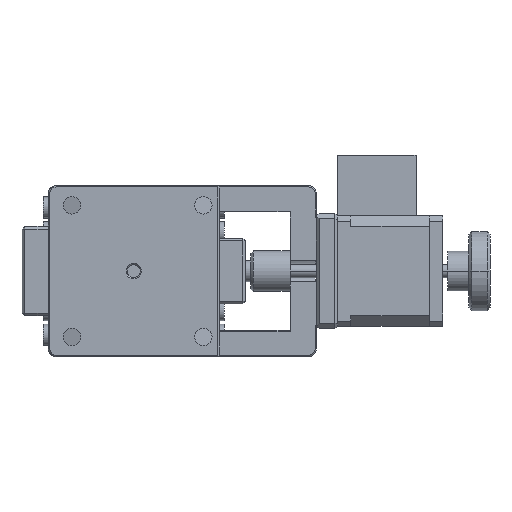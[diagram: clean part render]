
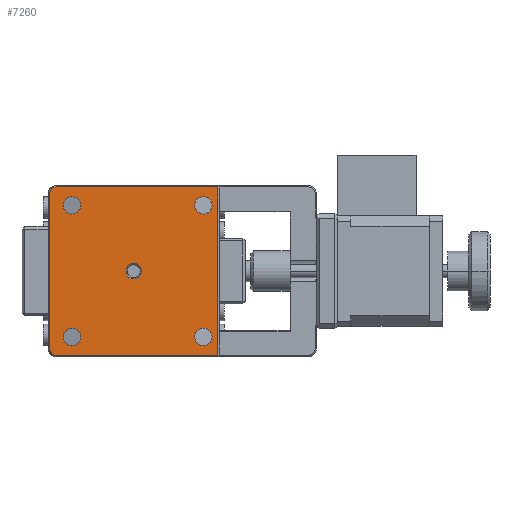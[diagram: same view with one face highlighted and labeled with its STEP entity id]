
A CAD part, front view. The second image highlights one B-rep face of the part: STEP entity #7260.
In plain terms, the highlighted planar face has unit normal (0, -1, 0).
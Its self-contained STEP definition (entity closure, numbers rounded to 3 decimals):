
#87 = ORIENTED_EDGE ( 'NONE', *, *, #9375, .T. ) ;
#365 = VERTEX_POINT ( 'NONE', #15858 ) ;
#374 = DIRECTION ( 'NONE',  ( 0., 0., 1. ) ) ;
#528 = ORIENTED_EDGE ( 'NONE', *, *, #15488, .T. ) ;
#898 = DIRECTION ( 'NONE',  ( 0., -1., 0. ) ) ;
#1033 = DIRECTION ( 'NONE',  ( 0., 0., 1. ) ) ;
#1092 = CIRCLE ( 'NONE', #17115, 3.3 ) ;
#1122 = VERTEX_POINT ( 'NONE', #16133 ) ;
#1263 = CIRCLE ( 'NONE', #10893, 2.5 ) ;
#1334 = FACE_BOUND ( 'NONE', #17310, .T. ) ;
#1569 = AXIS2_PLACEMENT_3D ( 'NONE', #19089, #5346, #8443 ) ;
#1606 = CARTESIAN_POINT ( 'NONE',  ( 26.5, -75., 57.5 ) ) ;
#1794 = CARTESIAN_POINT ( 'NONE',  ( -32., -75., 62. ) ) ;
#2060 = AXIS2_PLACEMENT_3D ( 'NONE', #7752, #7548, #4551 ) ;
#2153 = DIRECTION ( 'NONE',  ( 0., 1., 0. ) ) ;
#2225 = CIRCLE ( 'NONE', #15039, 3.3 ) ;
#2430 = DIRECTION ( 'NONE',  ( 0., 1., 0. ) ) ;
#2477 = DIRECTION ( 'NONE',  ( 0., 0., 1. ) ) ;
#2807 = EDGE_CURVE ( 'NONE', #14382, #14304, #1092, .T. ) ;
#2884 = LINE ( 'NONE', #9086, #8531 ) ;
#2912 = DIRECTION ( 'NONE',  ( 0., 0., 1. ) ) ;
#2954 = PLANE ( 'NONE',  #12793 ) ;
#2982 = DIRECTION ( 'NONE',  ( 1., 0., 0. ) ) ;
#3248 = FACE_BOUND ( 'NONE', #9110, .T. ) ;
#3351 = DIRECTION ( 'NONE',  ( 0., 0., 1. ) ) ;
#3413 = CIRCLE ( 'NONE', #14616, 2.925 ) ;
#3576 = ORIENTED_EDGE ( 'NONE', *, *, #12920, .T. ) ;
#3672 = EDGE_LOOP ( 'NONE', ( #8825, #5603 ) ) ;
#3991 = CARTESIAN_POINT ( 'NONE',  ( 26.5, -75., 7.5 ) ) ;
#4009 = DIRECTION ( 'NONE',  ( -1., 0., 0. ) ) ;
#4159 = CARTESIAN_POINT ( 'NONE',  ( 26.5, -75., 7.5 ) ) ;
#4203 = CARTESIAN_POINT ( 'NONE',  ( -29.5, -75., 62. ) ) ;
#4289 = EDGE_CURVE ( 'NONE', #16342, #18741, #15859, .T. ) ;
#4294 = ORIENTED_EDGE ( 'NONE', *, *, #4362, .T. ) ;
#4309 = DIRECTION ( 'NONE',  ( 0., 1., 0. ) ) ;
#4362 = EDGE_CURVE ( 'NONE', #11597, #16342, #7039, .T. ) ;
#4380 = CARTESIAN_POINT ( 'NONE',  ( -23.5, -75., 7.5 ) ) ;
#4551 = DIRECTION ( 'NONE',  ( 0., 0., 1. ) ) ;
#4714 = CARTESIAN_POINT ( 'NONE',  ( -23.5, -75., 54.2 ) ) ;
#4729 = CIRCLE ( 'NONE', #8562, 3.3 ) ;
#4855 = FACE_BOUND ( 'NONE', #3672, .T. ) ;
#5032 = EDGE_CURVE ( 'NONE', #365, #11263, #9432, .T. ) ;
#5227 = ORIENTED_EDGE ( 'NONE', *, *, #5538, .T. ) ;
#5346 = DIRECTION ( 'NONE',  ( 0., 1., 0. ) ) ;
#5372 = CARTESIAN_POINT ( 'NONE',  ( 0., -75., 29.575 ) ) ;
#5397 = VERTEX_POINT ( 'NONE', #15257 ) ;
#5538 = EDGE_CURVE ( 'NONE', #6581, #11597, #13436, .T. ) ;
#5603 = ORIENTED_EDGE ( 'NONE', *, *, #15965, .T. ) ;
#5714 = DIRECTION ( 'NONE',  ( 0., 0., 1. ) ) ;
#5873 = ORIENTED_EDGE ( 'NONE', *, *, #14516, .T. ) ;
#6373 = VERTEX_POINT ( 'NONE', #9139 ) ;
#6581 = VERTEX_POINT ( 'NONE', #13235 ) ;
#6794 = VERTEX_POINT ( 'NONE', #8213 ) ;
#7039 = CIRCLE ( 'NONE', #11839, 2.5 ) ;
#7071 = DIRECTION ( 'NONE',  ( 0., 1., 0. ) ) ;
#7098 = CARTESIAN_POINT ( 'NONE',  ( -29.5, -75., 3. ) ) ;
#7170 = DIRECTION ( 'NONE',  ( 0., 0., 1. ) ) ;
#7199 = DIRECTION ( 'NONE',  ( 0., -1., 0. ) ) ;
#7260 = ADVANCED_FACE ( 'NONE', ( #4855, #1334, #18387, #3248, #16678, #9156 ), #2954, .F. ) ;
#7531 = VERTEX_POINT ( 'NONE', #9108 ) ;
#7538 = ORIENTED_EDGE ( 'NONE', *, *, #8386, .T. ) ;
#7548 = DIRECTION ( 'NONE',  ( 0., 1., 0. ) ) ;
#7752 = CARTESIAN_POINT ( 'NONE',  ( 0., -75., 32.5 ) ) ;
#7763 = VERTEX_POINT ( 'NONE', #17344 ) ;
#8092 = EDGE_CURVE ( 'NONE', #13660, #9760, #9564, .T. ) ;
#8213 = CARTESIAN_POINT ( 'NONE',  ( 32., -75., 0.5 ) ) ;
#8386 = EDGE_CURVE ( 'NONE', #11263, #365, #3413, .T. ) ;
#8443 = DIRECTION ( 'NONE',  ( 0., 0., 1. ) ) ;
#8531 = VECTOR ( 'NONE', #2982, 1000. ) ;
#8562 = AXIS2_PLACEMENT_3D ( 'NONE', #11372, #2430, #14479 ) ;
#8698 = CARTESIAN_POINT ( 'NONE',  ( -32., -75., 3. ) ) ;
#8825 = ORIENTED_EDGE ( 'NONE', *, *, #2807, .T. ) ;
#8862 = EDGE_CURVE ( 'NONE', #7763, #6794, #2884, .T. ) ;
#8950 = CARTESIAN_POINT ( 'NONE',  ( -23.5, -75., 57.5 ) ) ;
#8953 = VECTOR ( 'NONE', #15952, 1000. ) ;
#9086 = CARTESIAN_POINT ( 'NONE',  ( -32.5, -75., 0.5 ) ) ;
#9108 = CARTESIAN_POINT ( 'NONE',  ( 26.5, -75., 54.2 ) ) ;
#9110 = EDGE_LOOP ( 'NONE', ( #10636, #12428 ) ) ;
#9139 = CARTESIAN_POINT ( 'NONE',  ( -23.5, -75., 4.2 ) ) ;
#9156 = FACE_OUTER_BOUND ( 'NONE', #12293, .T. ) ;
#9375 = EDGE_CURVE ( 'NONE', #6794, #6581, #11671, .T. ) ;
#9432 = CIRCLE ( 'NONE', #2060, 2.925 ) ;
#9564 = CIRCLE ( 'NONE', #12119, 3.3 ) ;
#9760 = VERTEX_POINT ( 'NONE', #18786 ) ;
#9776 = CARTESIAN_POINT ( 'NONE',  ( -23.5, -75., 57.5 ) ) ;
#10636 = ORIENTED_EDGE ( 'NONE', *, *, #14509, .T. ) ;
#10893 = AXIS2_PLACEMENT_3D ( 'NONE', #7098, #7199, #19336 ) ;
#11232 = CARTESIAN_POINT ( 'NONE',  ( -23.5, -75., 60.8 ) ) ;
#11263 = VERTEX_POINT ( 'NONE', #5372 ) ;
#11372 = CARTESIAN_POINT ( 'NONE',  ( 26.5, -75., 57.5 ) ) ;
#11373 = CARTESIAN_POINT ( 'NONE',  ( -29.5, -75., 64.5 ) ) ;
#11597 = VERTEX_POINT ( 'NONE', #11373 ) ;
#11671 = LINE ( 'NONE', #18736, #15281 ) ;
#11836 = ORIENTED_EDGE ( 'NONE', *, *, #14514, .T. ) ;
#11839 = AXIS2_PLACEMENT_3D ( 'NONE', #4203, #898, #5714 ) ;
#11911 = CARTESIAN_POINT ( 'NONE',  ( 26.5, -75., 4.2 ) ) ;
#12119 = AXIS2_PLACEMENT_3D ( 'NONE', #4159, #7071, #7170 ) ;
#12227 = AXIS2_PLACEMENT_3D ( 'NONE', #8950, #16279, #1033 ) ;
#12293 = EDGE_LOOP ( 'NONE', ( #16945, #87, #5227, #4294, #16355, #5873 ) ) ;
#12428 = ORIENTED_EDGE ( 'NONE', *, *, #8092, .T. ) ;
#12552 = CIRCLE ( 'NONE', #15091, 3.3 ) ;
#12793 = AXIS2_PLACEMENT_3D ( 'NONE', #18486, #13671, #19796 ) ;
#12920 = EDGE_CURVE ( 'NONE', #5397, #6373, #17574, .T. ) ;
#13133 = CARTESIAN_POINT ( 'NONE',  ( -29.5, -75., 64.5 ) ) ;
#13210 = DIRECTION ( 'NONE',  ( 0., 1., 0. ) ) ;
#13235 = CARTESIAN_POINT ( 'NONE',  ( 32., -75., 64.5 ) ) ;
#13436 = LINE ( 'NONE', #13133, #13921 ) ;
#13451 = EDGE_LOOP ( 'NONE', ( #7538, #18060 ) ) ;
#13509 = DIRECTION ( 'NONE',  ( 0., 1., 0. ) ) ;
#13512 = CIRCLE ( 'NONE', #12227, 3.3 ) ;
#13660 = VERTEX_POINT ( 'NONE', #11911 ) ;
#13671 = DIRECTION ( 'NONE',  ( 0., 1., 0. ) ) ;
#13921 = VECTOR ( 'NONE', #4009, 1000. ) ;
#14304 = VERTEX_POINT ( 'NONE', #4714 ) ;
#14382 = VERTEX_POINT ( 'NONE', #11232 ) ;
#14447 = CARTESIAN_POINT ( 'NONE',  ( -32., -75., 65. ) ) ;
#14479 = DIRECTION ( 'NONE',  ( 0., 0., 1. ) ) ;
#14509 = EDGE_CURVE ( 'NONE', #9760, #13660, #15709, .T. ) ;
#14514 = EDGE_CURVE ( 'NONE', #6373, #5397, #2225, .T. ) ;
#14516 = EDGE_CURVE ( 'NONE', #18741, #7763, #1263, .T. ) ;
#14616 = AXIS2_PLACEMENT_3D ( 'NONE', #17092, #15594, #3351 ) ;
#14814 = DIRECTION ( 'NONE',  ( 0., 0., 1. ) ) ;
#15039 = AXIS2_PLACEMENT_3D ( 'NONE', #4380, #13509, #14814 ) ;
#15091 = AXIS2_PLACEMENT_3D ( 'NONE', #1606, #4309, #2912 ) ;
#15257 = CARTESIAN_POINT ( 'NONE',  ( -23.5, -75., 10.8 ) ) ;
#15281 = VECTOR ( 'NONE', #374, 1000. ) ;
#15488 = EDGE_CURVE ( 'NONE', #7531, #1122, #12552, .T. ) ;
#15594 = DIRECTION ( 'NONE',  ( 0., 1., 0. ) ) ;
#15709 = CIRCLE ( 'NONE', #16987, 3.3 ) ;
#15772 = EDGE_LOOP ( 'NONE', ( #19368, #528 ) ) ;
#15858 = CARTESIAN_POINT ( 'NONE',  ( 0., -75., 35.425 ) ) ;
#15859 = LINE ( 'NONE', #14447, #8953 ) ;
#15901 = DIRECTION ( 'NONE',  ( 0., 0., 1. ) ) ;
#15952 = DIRECTION ( 'NONE',  ( 0., 0., -1. ) ) ;
#15965 = EDGE_CURVE ( 'NONE', #14304, #14382, #13512, .T. ) ;
#16133 = CARTESIAN_POINT ( 'NONE',  ( 26.5, -75., 60.8 ) ) ;
#16279 = DIRECTION ( 'NONE',  ( 0., 1., 0. ) ) ;
#16342 = VERTEX_POINT ( 'NONE', #1794 ) ;
#16355 = ORIENTED_EDGE ( 'NONE', *, *, #4289, .T. ) ;
#16678 = FACE_BOUND ( 'NONE', #13451, .T. ) ;
#16945 = ORIENTED_EDGE ( 'NONE', *, *, #8862, .T. ) ;
#16987 = AXIS2_PLACEMENT_3D ( 'NONE', #3991, #13210, #2477 ) ;
#17092 = CARTESIAN_POINT ( 'NONE',  ( 0., -75., 32.5 ) ) ;
#17115 = AXIS2_PLACEMENT_3D ( 'NONE', #9776, #2153, #15901 ) ;
#17310 = EDGE_LOOP ( 'NONE', ( #3576, #11836 ) ) ;
#17314 = EDGE_CURVE ( 'NONE', #1122, #7531, #4729, .T. ) ;
#17344 = CARTESIAN_POINT ( 'NONE',  ( -29.5, -75., 0.5 ) ) ;
#17574 = CIRCLE ( 'NONE', #1569, 3.3 ) ;
#18060 = ORIENTED_EDGE ( 'NONE', *, *, #5032, .T. ) ;
#18387 = FACE_BOUND ( 'NONE', #15772, .T. ) ;
#18486 = CARTESIAN_POINT ( 'NONE',  ( -32.5, -75., 65. ) ) ;
#18736 = CARTESIAN_POINT ( 'NONE',  ( 32., -75., 65. ) ) ;
#18741 = VERTEX_POINT ( 'NONE', #8698 ) ;
#18786 = CARTESIAN_POINT ( 'NONE',  ( 26.5, -75., 10.8 ) ) ;
#19089 = CARTESIAN_POINT ( 'NONE',  ( -23.5, -75., 7.5 ) ) ;
#19336 = DIRECTION ( 'NONE',  ( 0., 0., 1. ) ) ;
#19368 = ORIENTED_EDGE ( 'NONE', *, *, #17314, .T. ) ;
#19796 = DIRECTION ( 'NONE',  ( 1., 0., 0. ) ) ;
